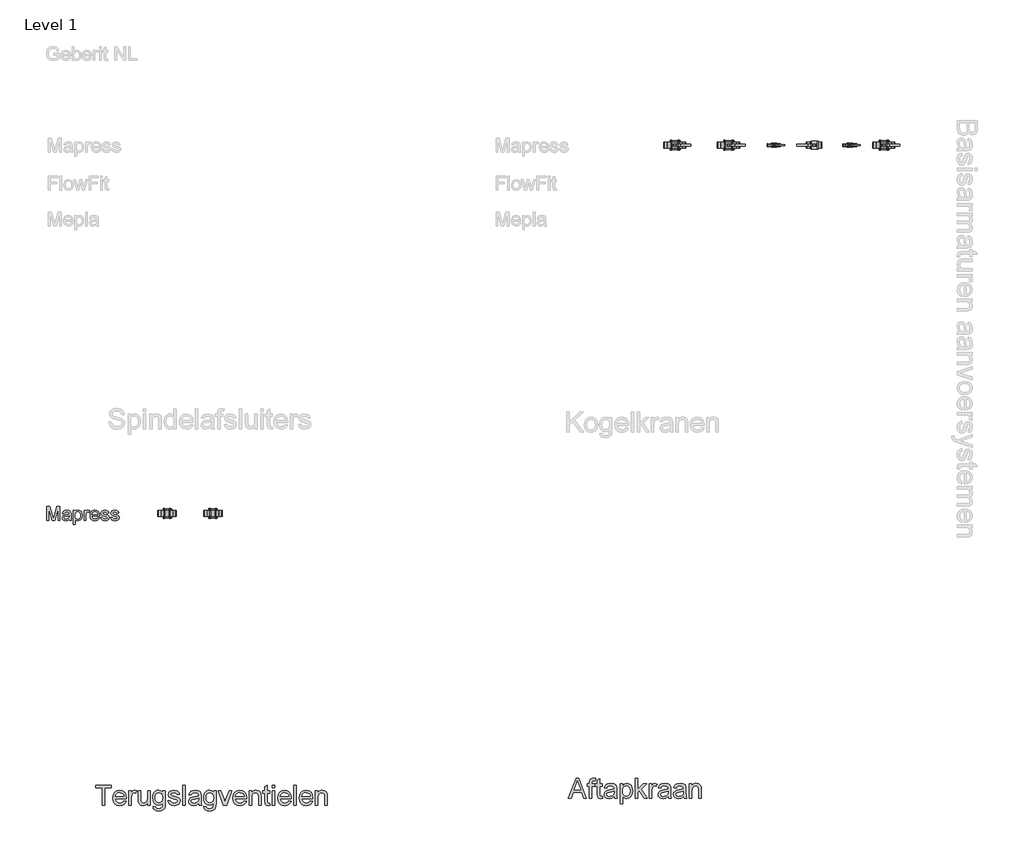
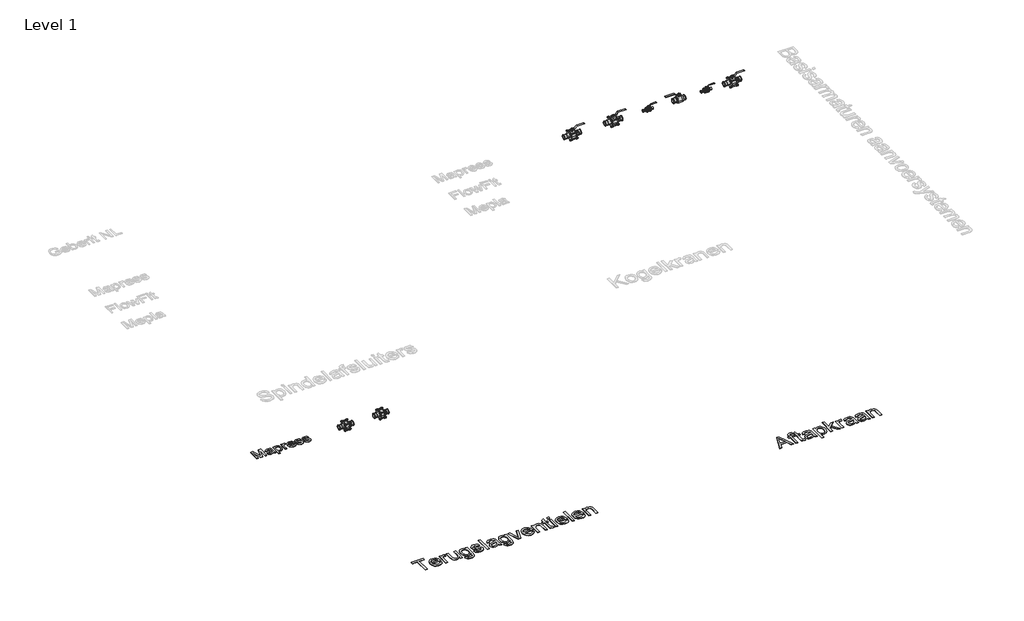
# One storey, part 1 of 4: 8 valves, 3 proxies.
"""IFC4 building model written with IfcOpenShell, lengths in millimetres."""

from ifc_helpers import new_model, si_unit, origin, origin_with_axes, place, context, project, spatial, polyline, outline, extrude, transform, mapped, element, save
from components import valve_6e79c216, valve_413fc0f3, valve_ff65ae7b, valve_31f89c0d, valve_4572d53d, valve_d77e4738, valve_4438d6f1, valve_11d08b45

model = new_model("IFC4")

# Units and contexts
model_context = context("Model", 3, world=origin())
ifc_project = project(units=[si_unit("LENGTHUNIT", "METRE", prefix="MILLI")], contexts=[model_context])

# Site, building, storey
site = spatial("IfcSite", under=ifc_project)
building = spatial("IfcBuilding", under=site)
storey = spatial("IfcBuildingStorey", under=building, Name="Level 1", Elevation=0.0)

# Proxies
placement = place(None, origin())
element("IfcBuildingElementProxy", 1, Name="medium", ObjectType="medium", at=placement, inside=storey, context=model_context, shape_type="SweptSolid", body=[
    extrude(outline(polyline([(-1515.3254345, -847.0732396), (-1515.3254345, -671.2746968), (-1581.249888, -671.2746968), (-1581.249888, -646.1606193), (-1424.2869034, -646.1606193), (-1424.2869034, -671.2746968), (-1490.2113569, -671.2746968), (-1490.2113569, -847.0732396), (-1515.3254345, -847.0732396)])), origin_with_axes(), (0.0, 0.0, 1.0), 5.0),
    extrude(outline(polyline([(-1295.8715616, -803.1236039), (-1271.2479934, -806.2628636), (-1280.1200808, -824.8163789), (-1294.2774063, -838.6855301), (-1313.4011387, -847.330757), (-1337.1724469, -850.2124993), (-1366.6397947, -845.239961), (-1389.3135884, -830.3223461), (-1403.7713508, -806.4284105), (-1408.5906049, -774.5269101), (-1403.7222999, -741.5524206), (-1389.1173846, -716.8920642), (-1366.7501593, -701.5145968), (-1338.594924, -696.3887744), (-1311.316474, -701.5023341), (-1289.5194658, -716.8430133), (-1275.2272503, -741.4543188), (-1270.4631785, -774.3797573), (-1270.6103313, -781.148786), (-1383.4765274, -781.148786), (-1379.1293885, -799.947556), (-1369.0310277, -813.7676563), (-1354.4567693, -822.2657304), (-1336.6819376, -825.0984217), (-1312.0583694, -819.8499719), (-1302.9103704, -813.044155), (-1295.8715616, -803.1236039)]), holes=[polyline([(-1383.4765274, -756.0347085), (-1295.577256, -756.0347085), (-1298.9740331, -742.7664312), (-1305.6326972, -733.2750757), (-1320.2744006, -724.4459079), (-1338.6930258, -721.5028519), (-1355.621729, -723.8511653), (-1369.6196389, -730.8961055), (-1379.3501177, -741.8773831), (-1383.4765274, -756.0347085)])]), origin_with_axes(), (0.0, 0.0, 1.0), 5.0),
    extrude(outline(polyline([(-1245.3491009, -847.0732396), (-1245.3491009, -699.528034), (-1223.3742831, -699.528034), (-1223.3742831, -721.3556991), (-1207.7760865, -701.2448167), (-1192.079788, -696.3887744), (-1179.5718002, -698.3262862), (-1166.8676086, -704.1388217), (-1175.2553181, -726.6531998), (-1192.9136539, -721.5028519), (-1207.1138989, -726.4569961), (-1216.163796, -740.1912572), (-1220.2350234, -769.523715), (-1220.2350234, -847.0732396), (-1245.3491009, -847.0732396)])), origin_with_axes(), (0.0, 0.0, 1.0), 5.0),
    extrude(outline(polyline([(-1056.9935194, -847.0732396), (-1056.9935194, -821.7139074), (-1066.0802047, -834.1820413), (-1076.6629434, -843.0878513), (-1088.7417356, -848.4313373), (-1102.3165812, -850.2124993), (-1125.9346053, -845.2093041), (-1142.2195149, -832.6522654), (-1149.6997822, -814.1600637), (-1151.1713102, -790.8118198), (-1151.1713102, -699.528034), (-1126.0572326, -699.528034), (-1126.0572326, -778.990545), (-1124.5366537, -804.5951319), (-1120.8762279, -813.1361255), (-1114.6038398, -819.6292427), (-1095.890909, -825.0984217), (-1074.9216353, -819.5066154), (-1066.5645826, -812.9031336), (-1061.0647468, -804.2763008), (-1056.9935194, -776.2927437), (-1056.9935194, -699.528034), (-1031.8794419, -699.528034), (-1031.8794419, -847.0732396), (-1056.9935194, -847.0732396)])), origin_with_axes(), (0.0, 0.0, 1.0), 5.0),
    extrude(outline(polyline([(-1003.6261046, -859.6302783), (-978.5120271, -862.769538), (-975.7406494, -870.6176873), (-970.3695723, -876.0132899), (-959.811359, -880.2071446), (-945.9912587, -881.6050962), (-931.2514534, -880.0232036), (-920.28857, -875.2775259), (-912.6856754, -867.6746313), (-908.0258368, -857.5210882), (-906.3090542, -828.2376814), (-923.9919154, -842.36435), (-945.5498003, -847.0732396), (-971.4425614, -841.5917979), (-990.7502348, -825.1474727), (-1002.7615819, -801.0389392), (-1006.7653643, -772.5648728), (-1004.9688739, -752.2884435), (-999.5794027, -733.6429577), (-990.787023, -717.842426), (-978.7818072, -706.100859), (-963.9745569, -698.8167955), (-946.7760736, -696.3887744), (-924.3720601, -701.8824788), (-906.3090542, -718.3635922), (-906.3090542, -699.528034), (-881.1949766, -699.528034), (-881.1949766, -826.9133062), (-882.9117593, -856.3254718), (-888.0621072, -875.6944588), (-896.9341947, -888.5396718), (-909.8161959, -898.3805152), (-926.4260679, -904.6345091), (-946.481768, -906.7191737), (-969.8484061, -903.7822491), (-988.2486372, -894.9714754), (-1000.0515179, -880.2623269), (-1003.6261046, -859.6302783)]), holes=[polyline([(-981.6512868, -770.8480902), (-978.9718796, -793.8836344), (-970.933658, -809.7209543), (-958.8487345, -818.8996101), (-944.0292214, -821.959162), (-929.320073, -818.9180042), (-917.1738358, -809.7945307), (-909.0252496, -794.1595459), (-906.3090542, -771.5838542), (-909.1049573, -749.8113714), (-917.4926668, -734.1334671), (-929.8167137, -724.6605057), (-944.4216289, -721.5028519), (-958.7628953, -724.6114548), (-970.7865052, -733.9372633), (-978.9350914, -749.3821758), (-981.6512868, -770.8480902)])]), origin_with_axes(), (0.0, 0.0, 1.0), 5.0),
    extrude(outline(polyline([(-852.9416394, -803.1236039), (-827.8275619, -799.9843442), (-823.8666991, -810.7264985), (-816.2024908, -818.6236986), (-804.7858862, -823.479741), (-789.5678344, -825.0984217), (-774.5337235, -823.614631), (-763.9632475, -819.1632589), (-757.7092536, -812.7130612), (-755.624589, -805.232794), (-757.7215163, -798.8316473), (-764.0122984, -793.9510795), (-789.86214, -786.7896433), (-827.6804091, -774.5023847), (-837.2514723, -768.3280985), (-844.1860479, -760.1549869), (-849.8023797, -739.8969517), (-845.2896939, -721.1840208), (-832.9779098, -706.885674), (-817.0118312, -699.4544576), (-795.4048954, -696.3887744), (-764.8461643, -701.3183931), (-753.417297, -707.1186659), (-745.421995, -714.6602468), (-736.7890308, -737.1991504), (-761.9031083, -740.33841), (-765.0730249, -732.4350785), (-771.3454129, -726.4815216), (-793.4428581, -721.5028519), (-807.8638323, -722.692337), (-817.4778151, -726.2607924), (-822.8856804, -731.4111403), (-824.6883022, -737.3463032), (-821.6961953, -744.6548921), (-812.3274671, -750.1976475), (-790.6960058, -755.5441992), (-753.8342299, -767.365474), (-736.7154544, -780.7563786), (-732.0617472, -790.6033533), (-730.5105114, -802.5840436), (-732.3315273, -814.9694041), (-737.7945749, -826.6190006), (-746.6911878, -836.6192596), (-758.8128996, -844.0566072), (-773.454603, -848.6735263), (-789.9111909, -850.2124993), (-815.2337349, -847.2449178), (-833.7136738, -838.3421736), (-846.0499834, -823.6023683), (-852.9416394, -803.1236039)])), origin_with_axes(), (0.0, 0.0, 1.0), 5.0),
    extrude(outline(polyline([(-702.2571742, -847.0732396), (-702.2571742, -646.1606193), (-677.1430966, -646.1606193), (-677.1430966, -847.0732396), (-702.2571742, -847.0732396)])), origin_with_axes(), (0.0, 0.0, 1.0), 5.0),
    extrude(outline(polyline([(-545.2941896, -828.2376814), (-569.6479777, -845.2583551), (-596.5524142, -850.2124993), (-617.5400821, -847.2326551), (-633.0217827, -838.2931226), (-642.5683205, -824.718277), (-645.7504997, -807.8324934), (-640.9435083, -787.9668657), (-628.3128932, -773.5458915), (-610.7281338, -765.3053348), (-588.9985706, -761.528413), (-545.4413424, -752.8954488), (-545.2941896, -747.3036425), (-547.023235, -736.0955044), (-552.2103711, -728.7623899), (-563.8109167, -723.3177364), (-579.973199, -721.5028519), (-594.9337335, -722.7107311), (-605.3815821, -726.3343688), (-612.5062301, -733.0359524), (-617.4971625, -743.4776697), (-642.61124, -740.33841), (-631.7464584, -715.8129437), (-622.4880949, -707.5601243), (-609.8697425, -701.4410204), (-576.7358374, -696.3887744), (-546.2997337, -700.8524092), (-529.1073818, -712.0605473), (-521.4063854, -729.1057465), (-520.180112, -751.0805643), (-520.180112, -782.3260084), (-518.9047878, -825.9568131), (-513.9015927, -847.0732396), (-539.0156702, -847.0732396), (-545.2941896, -828.2376814)]), holes=[polyline([(-545.2941896, -778.0095264), (-585.81026, -785.7105228), (-607.4171958, -789.7817502), (-617.2028569, -796.4036261), (-620.6364222, -806.0666599), (-618.7663554, -813.5346644), (-613.156155, -819.6537682), (-603.9284482, -823.7372584), (-591.2058626, -825.0984217), (-577.7168561, -823.5962369), (-565.7974794, -819.0896825), (-549.4144679, -804.5460809), (-545.4413424, -785.1219116), (-545.2941896, -778.0095264)])]), origin_with_axes(), (0.0, 0.0, 1.0), 5.0),
    extrude(outline(polyline([(-491.9267748, -859.6302783), (-466.8126973, -862.769538), (-464.0413196, -870.6176873), (-458.6702424, -876.0132899), (-448.1120292, -880.2071446), (-434.2919289, -881.6050962), (-419.5521236, -880.0232036), (-408.5892402, -875.2775259), (-400.9863456, -867.6746313), (-396.326507, -857.5210882), (-394.6097244, -828.2376814), (-412.2925856, -842.36435), (-433.8504705, -847.0732396), (-459.7432316, -841.5917979), (-479.050905, -825.1474727), (-491.0622521, -801.0389392), (-495.0660345, -772.5648728), (-493.2695441, -752.2884435), (-487.8800729, -733.6429577), (-479.0876932, -717.842426), (-467.0824774, -706.100859), (-452.2752271, -698.8167955), (-435.0767438, -696.3887744), (-412.6727303, -701.8824788), (-394.6097244, -718.3635922), (-394.6097244, -699.528034), (-369.4956468, -699.528034), (-369.4956468, -826.9133062), (-371.2124295, -856.3254718), (-376.3627774, -875.6944588), (-385.2348648, -888.5396718), (-398.116866, -898.3805152), (-414.7267381, -904.6345091), (-434.7824382, -906.7191737), (-458.1490763, -903.7822491), (-476.5493074, -894.9714754), (-488.3521881, -880.2623269), (-491.9267748, -859.6302783)]), holes=[polyline([(-469.951957, -770.8480902), (-467.2725498, -793.8836344), (-459.2343282, -809.7209543), (-447.1494046, -818.8996101), (-432.3298916, -821.959162), (-417.6207431, -818.9180042), (-405.4745059, -809.7945307), (-397.3259197, -794.1595459), (-394.6097244, -771.5838542), (-397.4056275, -749.8113714), (-405.793337, -734.1334671), (-418.1173838, -724.6605057), (-432.7222991, -721.5028519), (-447.0635655, -724.6114548), (-459.0871754, -733.9372633), (-467.2357616, -749.3821758), (-469.951957, -770.8480902)])]), origin_with_axes(), (0.0, 0.0, 1.0), 5.0),
    extrude(outline(polyline([(-295.6249422, -847.0732396), (-347.520829, -699.528034), (-320.9352234, -699.528034), (-289.4935756, -787.9178148), (-280.0267456, -817.64268), (-270.7561193, -789.5855465), (-239.1182677, -699.528034), (-212.5326622, -699.528034), (-263.7908869, -847.0732396), (-295.6249422, -847.0732396)])), origin_with_axes(), (0.0, 0.0, 1.0), 5.0),
    extrude(outline(polyline([(-87.2565801, -803.1236039), (-62.6330119, -806.2628636), (-71.5050994, -824.8163789), (-85.6624248, -838.6855301), (-104.7861572, -847.330757), (-128.5574654, -850.2124993), (-158.0248133, -845.239961), (-180.6986069, -830.3223461), (-195.1563693, -806.4284105), (-199.9756234, -774.5269101), (-195.1073184, -741.5524206), (-180.5024032, -716.8920642), (-158.1351779, -701.5145968), (-129.9799425, -696.3887744), (-102.7014925, -701.5023341), (-80.9044843, -716.8430133), (-66.6122688, -741.4543188), (-61.848197, -774.3797573), (-61.9953498, -781.148786), (-174.8615459, -781.148786), (-170.514407, -799.947556), (-160.4160462, -813.7676563), (-145.8417878, -822.2657304), (-128.0669561, -825.0984217), (-103.4433879, -819.8499719), (-94.295389, -813.044155), (-87.2565801, -803.1236039)]), holes=[polyline([(-174.8615459, -756.0347085), (-86.9622745, -756.0347085), (-90.3590516, -742.7664312), (-97.0177157, -733.2750757), (-111.6594191, -724.4459079), (-130.0780444, -721.5028519), (-147.0067475, -723.8511653), (-161.0046574, -730.8961055), (-170.7351362, -741.8773831), (-174.8615459, -756.0347085)])]), origin_with_axes(), (0.0, 0.0, 1.0), 5.0),
    extrude(outline(polyline([(-36.7341194, -847.0732396), (-36.7341194, -699.528034), (-11.6200419, -699.528034), (-11.6200419, -720.1294258), (-2.8951073, -709.7428908), (7.5833982, -702.3239372), (19.8154746, -697.8725651), (33.8011218, -696.3887744), (57.5172477, -701.1712403), (73.7040555, -713.7282791), (81.2333737, -732.1959552), (82.5577489, -756.4761669), (82.5577489, -847.0732396), (57.4436713, -847.0732396), (57.4436713, -759.8606813), (54.5496663, -737.6406087), (44.3225468, -725.8929104), (27.081144, -721.5028519), (12.3719955, -723.9676613), (-0.1666491, -731.3620894), (-8.7566937, -745.6481735), (-11.6200419, -768.787951), (-11.6200419, -847.0732396), (-36.7341194, -847.0732396)])), origin_with_axes(), (0.0, 0.0, 1.0), 5.0),
    extrude(outline(polyline([(170.4570202, -826.1284913), (173.5962799, -847.8090036), (154.8097727, -850.2124993), (133.7669226, -846.04317), (123.270023, -835.104812), (120.2288652, -806.6062201), (120.2288652, -724.6421116), (101.393307, -724.6421116), (101.393307, -699.528034), (120.2288652, -699.528034), (120.2288652, -663.6718023), (145.3429427, -648.9074715), (145.3429427, -699.528034), (170.4570202, -699.528034), (170.4570202, -724.6421116), (145.3429427, -724.6421116), (145.3429427, -805.8704561), (146.6673179, -818.8199024), (150.9592745, -823.4061646), (159.5186623, -825.0984217), (170.4570202, -826.1284913)])), origin_with_axes(), (0.0, 0.0, 1.0), 5.0),
    extrude(outline(polyline([(195.5710978, -671.2746968), (195.5710978, -646.1606193), (220.6851753, -646.1606193), (220.6851753, -671.2746968), (195.5710978, -671.2746968)])), origin_with_axes(), (0.0, 0.0, 1.0), 5.0),
    extrude(outline(polyline([(195.5710978, -847.0732396), (195.5710978, -699.528034), (220.6851753, -699.528034), (220.6851753, -847.0732396), (195.5710978, -847.0732396)])), origin_with_axes(), (0.0, 0.0, 1.0), 5.0),
    extrude(outline(polyline([(361.6575559, -803.1236039), (386.2811241, -806.2628636), (377.4090366, -824.8163789), (363.2517112, -838.6855301), (344.1279788, -847.330757), (320.3566705, -850.2124993), (290.8893227, -845.239961), (268.2155291, -830.3223461), (253.7577667, -806.4284105), (248.9385125, -774.5269101), (253.8068176, -741.5524206), (268.4117328, -716.8920642), (290.7789581, -701.5145968), (318.9341935, -696.3887744), (346.2126434, -701.5023341), (368.0096517, -716.8430133), (382.3018672, -741.4543188), (387.065939, -774.3797573), (386.9187862, -781.148786), (274.0525901, -781.148786), (278.399729, -799.947556), (288.4980898, -813.7676563), (303.0723481, -822.2657304), (320.8471799, -825.0984217), (345.4707481, -819.8499719), (354.618747, -813.044155), (361.6575559, -803.1236039)]), holes=[polyline([(274.0525901, -756.0347085), (361.9518615, -756.0347085), (358.5550844, -742.7664312), (351.8964203, -733.2750757), (337.2547169, -724.4459079), (318.8360916, -721.5028519), (301.9073885, -723.8511653), (287.9094786, -730.8961055), (278.1789998, -741.8773831), (274.0525901, -756.0347085)])]), origin_with_axes(), (0.0, 0.0, 1.0), 5.0),
    extrude(outline(polyline([(412.1800165, -847.0732396), (412.1800165, -646.1606193), (437.2940941, -646.1606193), (437.2940941, -847.0732396), (412.1800165, -847.0732396)])), origin_with_axes(), (0.0, 0.0, 1.0), 5.0),
    extrude(outline(polyline([(578.2664746, -803.1236039), (602.8900428, -806.2628636), (594.0179554, -824.8163789), (579.8606299, -838.6855301), (560.7368976, -847.330757), (536.9655893, -850.2124993), (507.4982415, -845.239961), (484.8244479, -830.3223461), (470.3666854, -806.4284105), (465.5474313, -774.5269101), (470.4157364, -741.5524206), (485.0206516, -716.8920642), (507.3878769, -701.5145968), (535.5431123, -696.3887744), (562.8215622, -701.5023341), (584.6185704, -716.8430133), (598.9107859, -741.4543188), (603.6748578, -774.3797573), (603.527705, -781.148786), (490.6615088, -781.148786), (495.0086478, -799.947556), (505.1070085, -813.7676563), (519.6812669, -822.2657304), (537.4560986, -825.0984217), (562.0796668, -819.8499719), (571.2276658, -813.044155), (578.2664746, -803.1236039)]), holes=[polyline([(490.6615088, -756.0347085), (578.5607802, -756.0347085), (575.1640031, -742.7664312), (568.505339, -733.2750757), (553.8636356, -724.4459079), (535.4450104, -721.5028519), (518.5163072, -723.8511653), (504.5183973, -730.8961055), (494.7879186, -741.8773831), (490.6615088, -756.0347085)])]), origin_with_axes(), (0.0, 0.0, 1.0), 5.0),
    extrude(outline(polyline([(628.7889353, -847.0732396), (628.7889353, -699.528034), (653.9030128, -699.528034), (653.9030128, -720.1294258), (662.6279475, -709.7428908), (673.106453, -702.3239372), (685.3385293, -697.8725651), (699.3241765, -696.3887744), (723.0403025, -701.1712403), (739.2271103, -713.7282791), (746.7564284, -732.1959552), (748.0808036, -756.4761669), (748.0808036, -847.0732396), (722.9667261, -847.0732396), (722.9667261, -759.8606813), (720.072721, -737.6406087), (709.8456016, -725.8929104), (692.6041987, -721.5028519), (677.8950503, -723.9676613), (665.3564056, -731.3620894), (656.766361, -745.6481735), (653.9030128, -768.787951), (653.9030128, -847.0732396), (628.7889353, -847.0732396)])), origin_with_axes(), (0.0, 0.0, 1.0), 5.0),
])
element("IfcBuildingElementProxy", 2, Name="medium", ObjectType="medium", at=placement, inside=storey, context=model_context, shape_type="SweptSolid", body=[
    extrude(outline(polyline([(3171.4336939, -777.9491957), (3251.6319689, -577.0365754), (3273.0181755, -577.0365754), (3353.2164505, -777.9491957), (3326.6798959, -777.9491957), (3303.6750085, -715.1640018), (3220.926085, -715.1640018), (3197.9702485, -777.9491957), (3171.4336939, -777.9491957)]), holes=[polyline([(3230.1476604, -690.0499243), (3294.5024841, -690.0499243), (3276.4026899, -640.6556351), (3262.3250722, -602.1506529), (3249.8170844, -636.339153), (3230.1476604, -690.0499243)])]), origin_with_axes(), (0.0, 0.0, 1.0), 5.0),
    extrude(outline(polyline([(3383.1865704, -777.9491957), (3383.1865704, -655.5180677), (3361.2117525, -655.5180677), (3361.2117525, -630.4039902), (3383.1865704, -630.4039902), (3383.1865704, -615.5415575), (3385.8353207, -594.5968093), (3390.8875668, -586.245888), (3398.6866651, -579.6362748), (3409.6004976, -575.3320555), (3423.9969464, -573.8973157), (3446.9037319, -576.6441679), (3443.224912, -600.1886156), (3428.7548868, -599.0113932), (3412.935961, -603.1807225), (3409.4594762, -609.1526736), (3408.3006479, -618.7298682), (3408.3006479, -630.4039902), (3436.5539851, -630.4039902), (3436.5539851, -655.5180677), (3408.3006479, -655.5180677), (3408.3006479, -777.9491957), (3383.1865704, -777.9491957)])), origin_with_axes(), (0.0, 0.0, 1.0), 5.0),
    extrude(outline(polyline([(3511.8962177, -757.0044474), (3515.0354774, -778.6849597), (3496.2489702, -781.0884554), (3475.2061201, -776.9191261), (3464.7092205, -765.9807681), (3461.6680627, -737.4821762), (3461.6680627, -655.5180677), (3442.8325045, -655.5180677), (3442.8325045, -630.4039902), (3461.6680627, -630.4039902), (3461.6680627, -594.5477584), (3486.7821402, -579.7834276), (3486.7821402, -630.4039902), (3511.8962177, -630.4039902), (3511.8962177, -655.5180677), (3486.7821402, -655.5180677), (3486.7821402, -736.7464122), (3488.1065154, -749.6958585), (3492.398472, -754.2821207), (3500.9578598, -755.9743778), (3511.8962177, -757.0044474)])), origin_with_axes(), (0.0, 0.0, 1.0), 5.0),
    extrude(outline(polyline([(3631.188086, -759.1136375), (3606.834298, -776.1343112), (3579.9298614, -781.0884554), (3558.9421936, -778.1086112), (3543.4604929, -769.1690787), (3533.9139552, -755.5942331), (3530.7317759, -738.7084495), (3535.5387673, -718.8428218), (3548.1693825, -704.4218476), (3565.7541418, -696.1812909), (3587.483705, -692.4043691), (3631.0409333, -683.7714049), (3631.188086, -678.1795986), (3629.4590407, -666.9714605), (3624.2719045, -659.638346), (3612.671359, -654.1936925), (3596.5090766, -652.378808), (3581.5485422, -653.5866872), (3571.1006935, -657.2103249), (3563.9760455, -663.9119085), (3558.9851131, -674.3536258), (3533.8710356, -671.2143662), (3544.7358172, -646.6888998), (3553.9941807, -638.4360804), (3566.6125332, -632.3169765), (3599.7464382, -627.2647305), (3630.1825419, -631.7283653), (3647.3748938, -642.9365035), (3655.0758903, -659.9817026), (3656.3021636, -681.9565204), (3656.3021636, -713.2019645), (3657.5774878, -756.8327692), (3662.580683, -777.9491957), (3637.4666054, -777.9491957), (3631.188086, -759.1136375)]), holes=[polyline([(3631.188086, -708.8854825), (3590.6720156, -716.5864789), (3569.0650798, -720.6577063), (3559.2794187, -727.2795822), (3555.8458534, -736.942616), (3557.7159202, -744.4106205), (3563.3261207, -750.5297243), (3572.5538274, -754.6132145), (3585.2764131, -755.9743778), (3598.7654195, -754.472193), (3610.6847962, -749.9656386), (3627.0678077, -735.422037), (3631.0409333, -715.9978677), (3631.188086, -708.8854825)])]), origin_with_axes(), (0.0, 0.0, 1.0), 5.0),
    extrude(outline(polyline([(3690.8340202, -834.4558701), (3690.8340202, -630.4039902), (3715.9480977, -630.4039902), (3715.9480977, -655.0275584), (3733.3121279, -634.2054374), (3744.0052312, -628.9999072), (3756.7584737, -627.2647305), (3773.7423592, -629.6927516), (3788.5925291, -636.9768151), (3800.683584, -648.6754626), (3809.3901245, -664.3472356), (3814.650837, -682.8516999), (3816.4044079, -703.0484215), (3814.4239765, -724.5265986), (3808.4826823, -743.7361701), (3798.7705976, -759.7022487), (3785.4777948, -771.4499471), (3769.9960942, -778.6788283), (3753.7173159, -781.0884554), (3742.1719526, -779.475906), (3731.8651254, -774.6382577), (3715.9480977, -758.3288226), (3715.9480977, -834.4558701), (3690.8340202, -834.4558701)]), holes=[polyline([(3715.9480977, -705.3538153), (3718.6642931, -727.8681934), (3726.8128793, -743.6135428), (3738.8364892, -752.8841691), (3753.1777556, -755.9743778), (3767.752014, -752.7738045), (3780.0821922, -743.1720844), (3788.4882958, -726.8503866), (3791.2903303, -703.4898799), (3788.5557409, -681.0981291), (3780.3519724, -665.1320505), (3768.3467566, -655.5671186), (3754.2078252, -652.378808), (3740.0137116, -655.7694537), (3727.5486433, -665.9413909), (3718.8482341, -682.5757884), (3715.9480977, -705.3538153)])]), origin_with_axes(), (0.0, 0.0, 1.0), 5.0),
    extrude(outline(polyline([(3844.6577451, -777.9491957), (3844.6577451, -577.0365754), (3869.7718227, -577.0365754), (3869.7718227, -684.9976782), (3926.0822934, -630.4039902), (3960.8103537, -630.4039902), (3903.8131699, -685.6843913), (3963.9496134, -777.9491957), (3934.6171557, -777.9491957), (3885.8114776, -703.1465233), (3869.7718227, -718.695669), (3869.7718227, -777.9491957), (3844.6577451, -777.9491957)])), origin_with_axes(), (0.0, 0.0, 1.0), 5.0),
    extrude(outline(polyline([(3985.9244313, -777.9491957), (3985.9244313, -630.4039902), (4007.8992491, -630.4039902), (4007.8992491, -652.2316552), (4023.4974457, -632.1207728), (4039.1937442, -627.2647305), (4051.701732, -629.2022423), (4064.4059236, -635.0147778), (4056.0182141, -657.5291559), (4038.3598783, -652.378808), (4024.1596333, -657.3329522), (4015.1097362, -671.0672134), (4011.0385088, -700.3996711), (4011.0385088, -777.9491957), (3985.9244313, -777.9491957)])), origin_with_axes(), (0.0, 0.0, 1.0), 5.0),
    extrude(outline(polyline([(4174.2800128, -759.1136375), (4149.9262247, -776.1343112), (4123.0217881, -781.0884554), (4102.0341203, -778.1086112), (4086.5524197, -769.1690787), (4077.0058819, -755.5942331), (4073.8237026, -738.7084495), (4078.630694, -718.8428218), (4091.2613092, -704.4218476), (4108.8460686, -696.1812909), (4130.5756318, -692.4043691), (4174.13286, -683.7714049), (4174.2800128, -678.1795986), (4172.5509674, -666.9714605), (4167.3638313, -659.638346), (4155.7632857, -654.1936925), (4139.6010034, -652.378808), (4124.6404689, -653.5866872), (4114.1926202, -657.2103249), (4107.0679723, -663.9119085), (4102.0770399, -674.3536258), (4076.9629623, -671.2143662), (4087.8277439, -646.6888998), (4097.0861075, -638.4360804), (4109.7044599, -632.3169765), (4142.8383649, -627.2647305), (4173.2744687, -631.7283653), (4190.4668206, -642.9365035), (4198.167817, -659.9817026), (4199.3940903, -681.9565204), (4199.3940903, -713.2019645), (4200.6694146, -756.8327692), (4205.6726097, -777.9491957), (4180.5585322, -777.9491957), (4174.2800128, -759.1136375)]), holes=[polyline([(4174.2800128, -708.8854825), (4133.7639424, -716.5864789), (4112.1570065, -720.6577063), (4102.3713455, -727.2795822), (4098.9377802, -736.942616), (4100.807847, -744.4106205), (4106.4180474, -750.5297243), (4115.6457541, -754.6132145), (4128.3683398, -755.9743778), (4141.8573463, -754.472193), (4153.7767229, -749.9656386), (4170.1597344, -735.422037), (4174.13286, -715.9978677), (4174.2800128, -708.8854825)])]), origin_with_axes(), (0.0, 0.0, 1.0), 5.0),
    extrude(outline(polyline([(4328.1037377, -759.1136375), (4303.7499496, -776.1343112), (4276.8455131, -781.0884554), (4255.8578452, -778.1086112), (4240.3761446, -769.1690787), (4230.8296068, -755.5942331), (4227.6474276, -738.7084495), (4232.454419, -718.8428218), (4245.0850341, -704.4218476), (4262.6697935, -696.1812909), (4284.3993567, -692.4043691), (4327.9565849, -683.7714049), (4328.1037377, -678.1795986), (4326.3746923, -666.9714605), (4321.1875562, -659.638346), (4309.5870106, -654.1936925), (4293.4247283, -652.378808), (4278.4641938, -653.5866872), (4268.0163452, -657.2103249), (4260.8916972, -663.9119085), (4255.9007648, -674.3536258), (4230.7866873, -671.2143662), (4241.6514688, -646.6888998), (4250.9098324, -638.4360804), (4263.5281848, -632.3169765), (4296.6620899, -627.2647305), (4327.0981936, -631.7283653), (4344.2905455, -642.9365035), (4351.9915419, -659.9817026), (4353.2178152, -681.9565204), (4353.2178152, -713.2019645), (4354.4931395, -756.8327692), (4359.4963346, -777.9491957), (4334.3822571, -777.9491957), (4328.1037377, -759.1136375)]), holes=[polyline([(4328.1037377, -708.8854825), (4287.5876673, -716.5864789), (4265.9807315, -720.6577063), (4256.1950704, -727.2795822), (4252.7615051, -736.942616), (4254.6315719, -744.4106205), (4260.2417723, -750.5297243), (4269.469479, -754.6132145), (4282.1920647, -755.9743778), (4295.6810712, -754.472193), (4307.6004478, -749.9656386), (4323.9834594, -735.422037), (4327.9565849, -715.9978677), (4328.1037377, -708.8854825)])]), origin_with_axes(), (0.0, 0.0, 1.0), 5.0),
    extrude(outline(polyline([(4387.7496719, -777.9491957), (4387.7496719, -630.4039902), (4412.8637494, -630.4039902), (4412.8637494, -651.0053819), (4421.5886841, -640.6188469), (4432.0671895, -633.1998933), (4444.2992659, -628.7485212), (4458.2849131, -627.2647305), (4482.001039, -632.0471964), (4498.1878468, -644.6042352), (4505.717165, -663.0719113), (4507.0415402, -687.352123), (4507.0415402, -777.9491957), (4481.9274626, -777.9491957), (4481.9274626, -690.7366374), (4479.0334576, -668.5165649), (4468.8063381, -656.7688665), (4451.5649353, -652.378808), (4436.8557869, -654.8436174), (4424.3171422, -662.2380455), (4415.7270976, -676.5241296), (4412.8637494, -699.6639071), (4412.8637494, -777.9491957), (4387.7496719, -777.9491957)])), origin_with_axes(), (0.0, 0.0, 1.0), 5.0),
])
element("IfcBuildingElementProxy", 3, Name="small", ObjectType="small", at=placement, inside=storey, context=model_context, shape_type="SweptSolid", body=[
    extrude(outline(polyline([(-2069.4933689, 2014.9829487), (-2069.4933689, 2155.6217829), (-2039.2436587, 2155.6217829), (-2010.4703816, 2056.4947531), (-2004.6676562, 2035.7903544), (-1998.3842318, 2058.2115357), (-1970.0916538, 2155.6217829), (-1939.8419436, 2155.6217829), (-1939.8419436, 2014.9829487), (-1957.4217979, 2014.9829487), (-1957.4217979, 2138.0419287), (-1992.7531847, 2014.9829487), (-2016.5821278, 2014.9829487), (-2051.9135146, 2138.0419287), (-2051.9135146, 2014.9829487), (-2069.4933689, 2014.9829487)])), origin_with_axes(), (0.0, 0.0, 1.0), 5.0),
    extrude(outline(polyline([(-1845.3502269, 2028.1678394), (-1862.3978785, 2016.2533679), (-1881.2309841, 2012.7854669), (-1895.9223516, 2014.8713579), (-1906.759542, 2021.1290306), (-1913.4421185, 2030.6314225), (-1915.669644, 2042.451471), (-1912.30475, 2056.3574104), (-1903.4633194, 2066.4520924), (-1891.1539878, 2072.2204821), (-1875.9432936, 2074.8643274), (-1845.4532338, 2080.9074023), (-1845.3502269, 2084.8216667), (-1846.5605586, 2092.6673634), (-1850.1915539, 2097.8005435), (-1858.3119358, 2101.6118009), (-1869.6255334, 2102.8822201), (-1887.4114016, 2099.5001583), (-1895.8923079, 2087.4998476), (-1913.4721622, 2089.6973294), (-1905.8668151, 2106.8651558), (-1890.5531139, 2116.9255021), (-1867.3593804, 2120.4620744), (-1846.0541077, 2117.33753), (-1834.0194614, 2109.4918333), (-1828.6287639, 2097.5601939), (-1827.7703726, 2082.1778214), (-1827.7703726, 2060.3060105), (-1826.8776456, 2029.7644473), (-1823.375409, 2014.9829487), (-1840.9552633, 2014.9829487), (-1845.3502269, 2028.1678394)]), holes=[polyline([(-1845.3502269, 2063.327548), (-1873.7114761, 2057.9368505), (-1888.8363312, 2055.0869913), (-1895.686294, 2050.4516782), (-1898.0897897, 2043.6875545), (-1892.8536026, 2034.1765787), (-1877.488398, 2030.3653212), (-1859.7025298, 2034.5714387), (-1848.2344217, 2044.7519598), (-1845.4532338, 2058.3488783), (-1845.3502269, 2063.327548)])]), origin_with_axes(), (0.0, 0.0, 1.0), 5.0),
    extrude(outline(polyline([(-1803.598073, 1975.4282766), (-1803.598073, 2118.2645926), (-1786.0182187, 2118.2645926), (-1786.0182187, 2101.0280948), (-1773.8633976, 2115.6035795), (-1757.4509555, 2120.4620744), (-1745.5622357, 2118.7624596), (-1735.1671168, 2113.6636151), (-1726.7033783, 2105.4745619), (-1720.6087999, 2094.5043208), (-1715.6988016, 2067.4134907), (-1721.2440095, 2038.9320666), (-1728.0424688, 2027.7558116), (-1737.3474307, 2019.5324227), (-1748.1846212, 2014.4722059), (-1759.579766, 2012.7854669), (-1774.8762993, 2017.3006053), (-1786.0182187, 2028.7172099), (-1786.0182187, 1975.4282766), (-1803.598073, 1975.4282766)]), holes=[polyline([(-1786.0182187, 2065.799715), (-1784.1168819, 2050.0396503), (-1778.4128716, 2039.0179057), (-1769.9963447, 2032.5284673), (-1759.9574581, 2030.3653212), (-1749.7554773, 2032.6057226), (-1741.1243525, 2039.3269266), (-1735.24008, 2050.7521151), (-1733.2786558, 2067.1044698), (-1735.1928685, 2082.7786953), (-1740.9355064, 2093.9549504), (-1749.3391575, 2100.6504027), (-1759.2364094, 2102.8822201), (-1769.172289, 2100.5087681), (-1777.8978368, 2093.3884121), (-1783.9881232, 2081.7443338), (-1786.0182187, 2065.799715)])]), origin_with_axes(), (0.0, 0.0, 1.0), 5.0),
    extrude(outline(polyline([(-1695.9214655, 2014.9829487), (-1695.9214655, 2118.2645926), (-1680.539093, 2118.2645926), (-1680.539093, 2102.9852271), (-1669.6203554, 2117.0628447), (-1658.6329465, 2120.4620744), (-1640.9844209, 2115.0370412), (-1646.8558175, 2099.2769766), (-1659.2166526, 2102.8822201), (-1669.1568241, 2099.4143192), (-1675.491752, 2089.8003364), (-1678.3416112, 2069.2676159), (-1678.3416112, 2014.9829487), (-1695.9214655, 2014.9829487)])), origin_with_axes(), (0.0, 0.0, 1.0), 5.0),
    extrude(outline(polyline([(-1557.686127, 2045.7476937), (-1540.4496293, 2043.5502119), (-1546.6600905, 2030.5627512), (-1556.5702183, 2020.8543454), (-1569.956831, 2014.8026865), (-1586.5967467, 2012.7854669), (-1607.2238902, 2016.2662437), (-1623.0955457, 2026.7085742), (-1633.2159794, 2043.4343291), (-1636.5894573, 2065.7653793), (-1633.1816438, 2088.847522), (-1622.9582031, 2106.1097715), (-1607.3011454, 2116.8739987), (-1587.5924807, 2120.4620744), (-1568.4975657, 2116.8825826), (-1553.23966, 2106.1441071), (-1543.2351091, 2088.9161933), (-1539.9002588, 2065.8683863), (-1540.0032658, 2061.1300662), (-1619.0096031, 2061.1300662), (-1615.9666058, 2047.9709272), (-1608.8977533, 2038.296857), (-1598.6957724, 2032.3482052), (-1586.2533902, 2030.3653212), (-1569.0168925, 2034.0392361), (-1557.686127, 2045.7476937)]), holes=[polyline([(-1619.0096031, 2078.7099205), (-1557.4801131, 2078.7099205), (-1564.5189219, 2094.6416634), (-1574.7681143, 2100.8220809), (-1587.661152, 2102.8822201), (-1599.5112442, 2101.2384007), (-1609.3097811, 2096.3069426), (-1616.1211163, 2088.6200483), (-1619.0096031, 2078.7099205)])]), origin_with_axes(), (0.0, 0.0, 1.0), 5.0),
    extrude(outline(polyline([(-1528.9128499, 2045.7476937), (-1511.3329956, 2047.9451755), (-1508.5603916, 2040.4256675), (-1503.1954459, 2034.8976274), (-1484.5511864, 2030.3653212), (-1466.6279756, 2034.5199352), (-1460.7909146, 2044.2712606), (-1466.6623112, 2052.1684608), (-1484.7572003, 2057.1814661), (-1511.2299887, 2065.7825472), (-1522.7839358, 2075.8257256), (-1526.7153681, 2090.0063503), (-1523.556488, 2103.1054018), (-1514.9382392, 2113.1142447), (-1503.7619842, 2118.3160961), (-1488.6371291, 2120.4620744), (-1467.2460173, 2117.0113413), (-1453.6490988, 2107.6720437), (-1447.6060239, 2091.8948112), (-1465.1858781, 2089.6973294), (-1471.7954913, 2099.3971513), (-1487.2637029, 2102.8822201), (-1504.0881729, 2099.5516618), (-1509.1355138, 2091.7918042), (-1507.041039, 2086.6757919), (-1500.4829293, 2082.7958632), (-1485.3409064, 2079.053277), (-1459.5376632, 2070.7783847), (-1447.5545204, 2061.4047514), (-1443.2110603, 2046.1253859), (-1448.3099047, 2029.300916), (-1463.022732, 2017.0945914), (-1484.7915359, 2012.7854669), (-1502.5173167, 2014.8627739), (-1515.453274, 2021.0946949), (-1524.0886907, 2031.4125586), (-1528.9128499, 2045.7476937)])), origin_with_axes(), (0.0, 0.0, 1.0), 5.0),
    extrude(outline(polyline([(-1430.0261696, 2045.7476937), (-1412.4463153, 2047.9451755), (-1409.6737113, 2040.4256675), (-1404.3087656, 2034.8976274), (-1385.6645061, 2030.3653212), (-1367.7412953, 2034.5199352), (-1361.9042343, 2044.2712606), (-1367.7756309, 2052.1684608), (-1385.87052, 2057.1814661), (-1412.3433084, 2065.7825472), (-1423.8972555, 2075.8257256), (-1427.8286878, 2090.0063503), (-1424.6698077, 2103.1054018), (-1416.0515589, 2113.1142447), (-1404.8753038, 2118.3160961), (-1389.7504488, 2120.4620744), (-1368.359337, 2117.0113413), (-1354.7624185, 2107.6720437), (-1348.7193436, 2091.8948112), (-1366.2991978, 2089.6973294), (-1372.908811, 2099.3971513), (-1388.3770226, 2102.8822201), (-1405.2014926, 2099.5516618), (-1410.2488335, 2091.7918042), (-1408.1543587, 2086.6757919), (-1401.596249, 2082.7958632), (-1386.4542261, 2079.053277), (-1360.6509829, 2070.7783847), (-1348.6678401, 2061.4047514), (-1344.32438, 2046.1253859), (-1349.4232244, 2029.300916), (-1364.1360517, 2017.0945914), (-1385.9048556, 2012.7854669), (-1403.6306364, 2014.8627739), (-1416.5665937, 2021.0946949), (-1425.2020104, 2031.4125586), (-1430.0261696, 2045.7476937)])), origin_with_axes(), (0.0, 0.0, 1.0), 5.0),
])

# Valves
valve_shape = valve_6e79c216(model_context)
element("IfcValve", 4, ObjectType="NLRS_50_PIA_UN_Geberit Mapress CuNiFe kogelkraan met bedieningshendel, geflensd_PRO_332965 : DN12-100 / d15-108 - OD", at=placement, inside=storey, context=model_context, shape_type="MappedRepresentation", body=[
    mapped(valve_shape, transform((6341.662055, 5790.8053825, 0.0), x_axis=(1.0, 0.0, 0.0), y_axis=(0.0, 1.0, 0.0), z_axis=(0.0, 0.0, 1.0))),
])
valve_2_shape = valve_413fc0f3(model_context)
element("IfcValve", 5, ObjectType="NLRS_50_PIA_UN_Geberit Mapress CuNiFe terugslagventiel geflensd_PRO_333156 : DN12-100 / d15-108 - OD", at=placement, inside=storey, context=model_context, shape_type="MappedRepresentation", body=[
    mapped(valve_2_shape, transform((-402.2410764, 2087.0981739, 0.0), x_axis=(1.0, 0.0, 0.0), y_axis=(0.0, 1.0, 0.0), z_axis=(0.0, 0.0, 1.0))),
])
valve_3_shape = valve_ff65ae7b(model_context)
element("IfcValve", 6, ObjectType="NLRS_50_PIA_UN_Geberit Mapress kogelkraan NPW, met bedieningshendel_PRO_103494 : DN12-50 / d15-54 - OD", at=placement, inside=storey, context=model_context, shape_type="MappedRepresentation", body=[
    mapped(valve_3_shape, transform((5641.662055, 5790.8053825, 0.0), x_axis=(1.0, 0.0, 0.0), y_axis=(0.0, 1.0, 0.0), z_axis=(0.0, 0.0, 1.0))),
])
valve_4_shape = valve_31f89c0d(model_context)
element("IfcValve", 7, ObjectType="NLRS_50_PIA_UN_Geberit Mapress rvs kogelkraan met bedieningshendel en slangaansluiting, geflensd_PRO_332964 : DN12-20-G1\" / d15-22-G1\" - OD", at=placement, inside=storey, context=model_context, shape_type="MappedRepresentation", body=[
    mapped(valve_4_shape, transform((5241.662055, 5790.8053825, 0.0), x_axis=(1.0, 0.0, 0.0), y_axis=(0.0, 1.0, 0.0), z_axis=(0.0, 0.0, 1.0))),
])
valve_5_shape = valve_4572d53d(model_context)
element("IfcValve", 8, ObjectType="NLRS_50_PIA_UN_Geberit Mapress rvs kogelkraan met bedieningshendel, geflensd (FKM blauw)_PRO_332967 : DN12-100 / d15-108 - OD", at=placement, inside=storey, context=model_context, shape_type="MappedRepresentation", body=[
    mapped(valve_5_shape, transform((4781.662055, 5790.8053825, 0.0), x_axis=(1.0, 0.0, 0.0), y_axis=(0.0, 1.0, 0.0), z_axis=(0.0, 0.0, 1.0))),
])
valve_6_shape = valve_d77e4738(model_context)
element("IfcValve", 9, ObjectType="NLRS_50_PIA_UN_Geberit Mapress rvs kogelkraan met bedieningshendel, geflensd_PRO_332963 : DN12-100 / d15-108 - OD", at=placement, inside=storey, context=model_context, shape_type="MappedRepresentation", body=[
    mapped(valve_6_shape, transform((4241.662055, 5790.8053825, 0.0), x_axis=(1.0, 0.0, 0.0), y_axis=(0.0, 1.0, 0.0), z_axis=(0.0, 0.0, 1.0))),
])
valve_7_shape = valve_4438d6f1(model_context)
element("IfcValve", 10, ObjectType="NLRS_50_PIA_UN_Geberit Mapress rvs terugslagventiel geflensd_PRO_333155 : DN12-100 / d15-108 - OD", at=placement, inside=storey, context=model_context, shape_type="MappedRepresentation", body=[
    mapped(valve_7_shape, transform((-862.2410764, 2087.0981739, 0.0), x_axis=(1.0, 0.0, 0.0), y_axis=(0.0, 1.0, 0.0), z_axis=(0.0, 0.0, 1.0))),
])
valve_8_shape = valve_11d08b45(model_context)
element("IfcValve", 11, ObjectType="NLRS_50_PIA_UN_Geberit Mapress CuNiFe kogelkraan met bedieningshendel en slangaansluiting, geflensd_PRO_332966 : DN20-G1\" / d22-G1\" - OD", at=placement, inside=storey, context=model_context, shape_type="MappedRepresentation", body=[
    mapped(valve_8_shape, transform((6001.662055, 5790.8053825, 0.0), x_axis=(1.0, 0.0, 0.0), y_axis=(0.0, 1.0, 0.0), z_axis=(0.0, 0.0, 1.0))),
])

save(model, "model.ifc")
